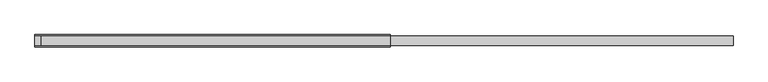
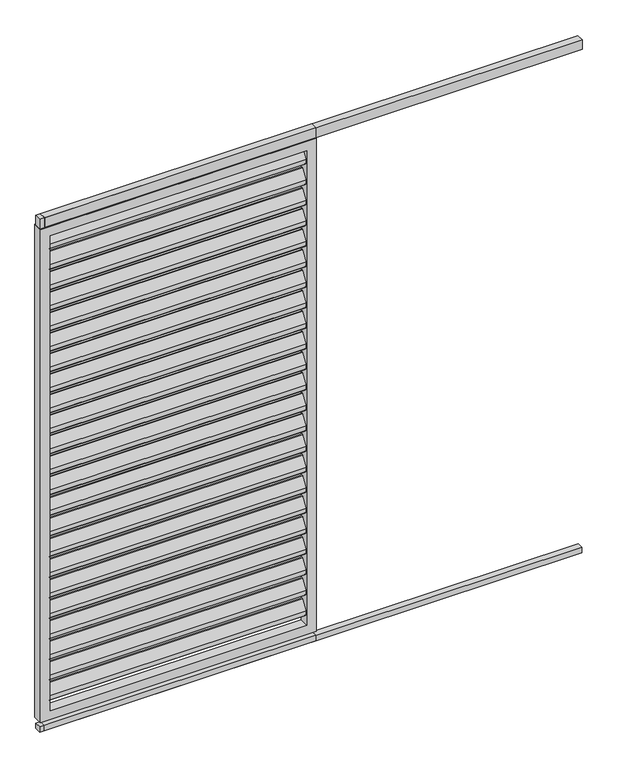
"""IFC4 building model written with IfcOpenShell, lengths in millimetres: proxy geometry, Renson_Camargue_Loggia_Paro_Aluminium : Renson_Camargue_Loggia_Paro_Aluminium."""

from ifc_helpers import new_model, si_unit, point, frame, frame_2d, origin, origin_with_axes, place, context, project, spatial, polyline, circle_curve, trimmed, segment, composite_curve, outline, extrude, source, transform, mapped, element, save


def generic_models_f1411d27(model_context):
    return source(origin(), model_context, "Body", "SweptSolid", [
        extrude(outline(composite_curve([segment(trimmed(circle_curve(frame_2d((12.6675921, 2162.6587719)), 3.0), [point((10.1515804, 2164.292689))], [point((15.6675921, 2162.6587719))], False, "CARTESIAN"), True, "CONTINUOUS"), segment(polyline([(15.6675921, 2162.6587719), (15.6675921, 2144.2979873)]), True, "CONTINUOUS"), segment(trimmed(circle_curve(frame_2d((12.6675921, 2144.2979873)), 3.0), [point((15.6675921, 2144.2979873))], [point((15.1836038, 2142.6640702))], False, "CARTESIAN"), True, "CONTINUOUS"), segment(polyline([(15.1836038, 2142.6640702), (-8.8163962, 2105.707311)]), True, "CONTINUOUS"), segment(trimmed(circle_curve(frame_2d((-11.3324079, 2107.3412281)), 3.0), [point((-8.8163962, 2105.707311))], [point((-14.3324079, 2107.3412281))], False, "CARTESIAN"), True, "CONTINUOUS"), segment(polyline([(-14.3324079, 2107.3412281), (-14.3324079, 2126.5906532), (10.1515804, 2164.292689)]), True, "CONTINUOUS")], self_intersect=False)), frame((-532.5, 0.0, 0.0), z_axis=(1.0, 0.0, 0.0), x_axis=(0.0, 1.0, 0.0)), (0.0, 0.0, 1.0), 1065.0),
        extrude(outline(composite_curve([segment(trimmed(circle_curve(frame_2d((12.6675921, 2072.6587719)), 3.0), [point((10.1515804, 2074.292689))], [point((15.6675921, 2072.6587719))], False, "CARTESIAN"), True, "CONTINUOUS"), segment(polyline([(15.6675921, 2072.6587719), (15.6675921, 2054.2979873)]), True, "CONTINUOUS"), segment(trimmed(circle_curve(frame_2d((12.6675921, 2054.2979873)), 3.0), [point((15.6675921, 2054.2979873))], [point((15.1836038, 2052.6640702))], False, "CARTESIAN"), True, "CONTINUOUS"), segment(polyline([(15.1836038, 2052.6640702), (-8.8163962, 2015.707311)]), True, "CONTINUOUS"), segment(trimmed(circle_curve(frame_2d((-11.3324079, 2017.3412281)), 3.0), [point((-8.8163962, 2015.707311))], [point((-14.3324079, 2017.3412281))], False, "CARTESIAN"), True, "CONTINUOUS"), segment(polyline([(-14.3324079, 2017.3412281), (-14.3324079, 2036.5906532), (10.1515804, 2074.292689)]), True, "CONTINUOUS")], self_intersect=False)), frame((-532.5, 0.0, 0.0), z_axis=(1.0, 0.0, 0.0), x_axis=(0.0, 1.0, 0.0)), (0.0, 0.0, 1.0), 1065.0),
        extrude(outline(composite_curve([segment(trimmed(circle_curve(frame_2d((12.6675921, 1982.6587719)), 3.0), [point((10.1515804, 1984.292689))], [point((15.6675921, 1982.6587719))], False, "CARTESIAN"), True, "CONTINUOUS"), segment(polyline([(15.6675921, 1982.6587719), (15.6675921, 1964.2979873)]), True, "CONTINUOUS"), segment(trimmed(circle_curve(frame_2d((12.6675921, 1964.2979873)), 3.0), [point((15.6675921, 1964.2979873))], [point((15.1836038, 1962.6640702))], False, "CARTESIAN"), True, "CONTINUOUS"), segment(polyline([(15.1836038, 1962.6640702), (-8.8163962, 1925.707311)]), True, "CONTINUOUS"), segment(trimmed(circle_curve(frame_2d((-11.3324079, 1927.3412281)), 3.0), [point((-8.8163962, 1925.707311))], [point((-14.3324079, 1927.3412281))], False, "CARTESIAN"), True, "CONTINUOUS"), segment(polyline([(-14.3324079, 1927.3412281), (-14.3324079, 1946.5906532), (10.1515804, 1984.292689)]), True, "CONTINUOUS")], self_intersect=False)), frame((-532.5, 0.0, 0.0), z_axis=(1.0, 0.0, 0.0), x_axis=(0.0, 1.0, 0.0)), (0.0, 0.0, 1.0), 1065.0),
        extrude(outline(composite_curve([segment(trimmed(circle_curve(frame_2d((12.6675921, 1892.6587719)), 3.0), [point((10.1515804, 1894.292689))], [point((15.6675921, 1892.6587719))], False, "CARTESIAN"), True, "CONTINUOUS"), segment(polyline([(15.6675921, 1892.6587719), (15.6675921, 1874.2979873)]), True, "CONTINUOUS"), segment(trimmed(circle_curve(frame_2d((12.6675921, 1874.2979873)), 3.0), [point((15.6675921, 1874.2979873))], [point((15.1836038, 1872.6640702))], False, "CARTESIAN"), True, "CONTINUOUS"), segment(polyline([(15.1836038, 1872.6640702), (-8.8163962, 1835.707311)]), True, "CONTINUOUS"), segment(trimmed(circle_curve(frame_2d((-11.3324079, 1837.3412281)), 3.0), [point((-8.8163962, 1835.707311))], [point((-14.3324079, 1837.3412281))], False, "CARTESIAN"), True, "CONTINUOUS"), segment(polyline([(-14.3324079, 1837.3412281), (-14.3324079, 1856.5906532), (10.1515804, 1894.292689)]), True, "CONTINUOUS")], self_intersect=False)), frame((-532.5, 0.0, 0.0), z_axis=(1.0, 0.0, 0.0), x_axis=(0.0, 1.0, 0.0)), (0.0, 0.0, 1.0), 1065.0),
        extrude(outline(composite_curve([segment(trimmed(circle_curve(frame_2d((12.6675921, 1802.6587719)), 3.0), [point((10.1515804, 1804.292689))], [point((15.6675921, 1802.6587719))], False, "CARTESIAN"), True, "CONTINUOUS"), segment(polyline([(15.6675921, 1802.6587719), (15.6675921, 1784.2979873)]), True, "CONTINUOUS"), segment(trimmed(circle_curve(frame_2d((12.6675921, 1784.2979873)), 3.0), [point((15.6675921, 1784.2979873))], [point((15.1836038, 1782.6640702))], False, "CARTESIAN"), True, "CONTINUOUS"), segment(polyline([(15.1836038, 1782.6640702), (-8.8163962, 1745.707311)]), True, "CONTINUOUS"), segment(trimmed(circle_curve(frame_2d((-11.3324079, 1747.3412281)), 3.0), [point((-8.8163962, 1745.707311))], [point((-14.3324079, 1747.3412281))], False, "CARTESIAN"), True, "CONTINUOUS"), segment(polyline([(-14.3324079, 1747.3412281), (-14.3324079, 1766.5906532), (10.1515804, 1804.292689)]), True, "CONTINUOUS")], self_intersect=False)), frame((-532.5, 0.0, 0.0), z_axis=(1.0, 0.0, 0.0), x_axis=(0.0, 1.0, 0.0)), (0.0, 0.0, 1.0), 1065.0),
        extrude(outline(composite_curve([segment(trimmed(circle_curve(frame_2d((12.6675921, 1712.6587719)), 3.0), [point((10.1515804, 1714.292689))], [point((15.6675921, 1712.6587719))], False, "CARTESIAN"), True, "CONTINUOUS"), segment(polyline([(15.6675921, 1712.6587719), (15.6675921, 1694.2979873)]), True, "CONTINUOUS"), segment(trimmed(circle_curve(frame_2d((12.6675921, 1694.2979873)), 3.0), [point((15.6675921, 1694.2979873))], [point((15.1836038, 1692.6640702))], False, "CARTESIAN"), True, "CONTINUOUS"), segment(polyline([(15.1836038, 1692.6640702), (-8.8163962, 1655.707311)]), True, "CONTINUOUS"), segment(trimmed(circle_curve(frame_2d((-11.3324079, 1657.3412281)), 3.0), [point((-8.8163962, 1655.707311))], [point((-14.3324079, 1657.3412281))], False, "CARTESIAN"), True, "CONTINUOUS"), segment(polyline([(-14.3324079, 1657.3412281), (-14.3324079, 1676.5906532), (10.1515804, 1714.292689)]), True, "CONTINUOUS")], self_intersect=False)), frame((-532.5, 0.0, 0.0), z_axis=(1.0, 0.0, 0.0), x_axis=(0.0, 1.0, 0.0)), (0.0, 0.0, 1.0), 1065.0),
        extrude(outline(composite_curve([segment(trimmed(circle_curve(frame_2d((12.6675921, 1622.6587719)), 3.0), [point((10.1515804, 1624.292689))], [point((15.6675921, 1622.6587719))], False, "CARTESIAN"), True, "CONTINUOUS"), segment(polyline([(15.6675921, 1622.6587719), (15.6675921, 1604.2979873)]), True, "CONTINUOUS"), segment(trimmed(circle_curve(frame_2d((12.6675921, 1604.2979873)), 3.0), [point((15.6675921, 1604.2979873))], [point((15.1836038, 1602.6640702))], False, "CARTESIAN"), True, "CONTINUOUS"), segment(polyline([(15.1836038, 1602.6640702), (-8.8163962, 1565.707311)]), True, "CONTINUOUS"), segment(trimmed(circle_curve(frame_2d((-11.3324079, 1567.3412281)), 3.0), [point((-8.8163962, 1565.707311))], [point((-14.3324079, 1567.3412281))], False, "CARTESIAN"), True, "CONTINUOUS"), segment(polyline([(-14.3324079, 1567.3412281), (-14.3324079, 1586.5906532), (10.1515804, 1624.292689)]), True, "CONTINUOUS")], self_intersect=False)), frame((-532.5, 0.0, 0.0), z_axis=(1.0, 0.0, 0.0), x_axis=(0.0, 1.0, 0.0)), (0.0, 0.0, 1.0), 1065.0),
        extrude(outline(composite_curve([segment(trimmed(circle_curve(frame_2d((12.6675921, 1532.6587719)), 3.0), [point((10.1515804, 1534.292689))], [point((15.6675921, 1532.6587719))], False, "CARTESIAN"), True, "CONTINUOUS"), segment(polyline([(15.6675921, 1532.6587719), (15.6675921, 1514.2979873)]), True, "CONTINUOUS"), segment(trimmed(circle_curve(frame_2d((12.6675921, 1514.2979873)), 3.0), [point((15.6675921, 1514.2979873))], [point((15.1836038, 1512.6640702))], False, "CARTESIAN"), True, "CONTINUOUS"), segment(polyline([(15.1836038, 1512.6640702), (-8.8163962, 1475.707311)]), True, "CONTINUOUS"), segment(trimmed(circle_curve(frame_2d((-11.3324079, 1477.3412281)), 3.0), [point((-8.8163962, 1475.707311))], [point((-14.3324079, 1477.3412281))], False, "CARTESIAN"), True, "CONTINUOUS"), segment(polyline([(-14.3324079, 1477.3412281), (-14.3324079, 1496.5906532), (10.1515804, 1534.292689)]), True, "CONTINUOUS")], self_intersect=False)), frame((-532.5, 0.0, 0.0), z_axis=(1.0, 0.0, 0.0), x_axis=(0.0, 1.0, 0.0)), (0.0, 0.0, 1.0), 1065.0),
        extrude(outline(composite_curve([segment(trimmed(circle_curve(frame_2d((12.6675921, 1442.6587719)), 3.0), [point((10.1515804, 1444.292689))], [point((15.6675921, 1442.6587719))], False, "CARTESIAN"), True, "CONTINUOUS"), segment(polyline([(15.6675921, 1442.6587719), (15.6675921, 1424.2979873)]), True, "CONTINUOUS"), segment(trimmed(circle_curve(frame_2d((12.6675921, 1424.2979873)), 3.0), [point((15.6675921, 1424.2979873))], [point((15.1836038, 1422.6640702))], False, "CARTESIAN"), True, "CONTINUOUS"), segment(polyline([(15.1836038, 1422.6640702), (-8.8163962, 1385.707311)]), True, "CONTINUOUS"), segment(trimmed(circle_curve(frame_2d((-11.3324079, 1387.3412281)), 3.0), [point((-8.8163962, 1385.707311))], [point((-14.3324079, 1387.3412281))], False, "CARTESIAN"), True, "CONTINUOUS"), segment(polyline([(-14.3324079, 1387.3412281), (-14.3324079, 1406.5906532), (10.1515804, 1444.292689)]), True, "CONTINUOUS")], self_intersect=False)), frame((-532.5, 0.0, 0.0), z_axis=(1.0, 0.0, 0.0), x_axis=(0.0, 1.0, 0.0)), (0.0, 0.0, 1.0), 1065.0),
        extrude(outline(composite_curve([segment(trimmed(circle_curve(frame_2d((12.6675921, 1352.6587719)), 3.0), [point((10.1515804, 1354.292689))], [point((15.6675921, 1352.6587719))], False, "CARTESIAN"), True, "CONTINUOUS"), segment(polyline([(15.6675921, 1352.6587719), (15.6675921, 1334.2979873)]), True, "CONTINUOUS"), segment(trimmed(circle_curve(frame_2d((12.6675921, 1334.2979873)), 3.0), [point((15.6675921, 1334.2979873))], [point((15.1836038, 1332.6640702))], False, "CARTESIAN"), True, "CONTINUOUS"), segment(polyline([(15.1836038, 1332.6640702), (-8.8163962, 1295.707311)]), True, "CONTINUOUS"), segment(trimmed(circle_curve(frame_2d((-11.3324079, 1297.3412281)), 3.0), [point((-8.8163962, 1295.707311))], [point((-14.3324079, 1297.3412281))], False, "CARTESIAN"), True, "CONTINUOUS"), segment(polyline([(-14.3324079, 1297.3412281), (-14.3324079, 1316.5906532), (10.1515804, 1354.292689)]), True, "CONTINUOUS")], self_intersect=False)), frame((-532.5, 0.0, 0.0), z_axis=(1.0, 0.0, 0.0), x_axis=(0.0, 1.0, 0.0)), (0.0, 0.0, 1.0), 1065.0),
        extrude(outline(composite_curve([segment(trimmed(circle_curve(frame_2d((12.6675921, 1262.6587719)), 3.0), [point((10.1515804, 1264.292689))], [point((15.6675921, 1262.6587719))], False, "CARTESIAN"), True, "CONTINUOUS"), segment(polyline([(15.6675921, 1262.6587719), (15.6675921, 1244.2979873)]), True, "CONTINUOUS"), segment(trimmed(circle_curve(frame_2d((12.6675921, 1244.2979873)), 3.0), [point((15.6675921, 1244.2979873))], [point((15.1836038, 1242.6640702))], False, "CARTESIAN"), True, "CONTINUOUS"), segment(polyline([(15.1836038, 1242.6640702), (-8.8163962, 1205.707311)]), True, "CONTINUOUS"), segment(trimmed(circle_curve(frame_2d((-11.3324079, 1207.3412281)), 3.0), [point((-8.8163962, 1205.707311))], [point((-14.3324079, 1207.3412281))], False, "CARTESIAN"), True, "CONTINUOUS"), segment(polyline([(-14.3324079, 1207.3412281), (-14.3324079, 1226.5906532), (10.1515804, 1264.292689)]), True, "CONTINUOUS")], self_intersect=False)), frame((-532.5, 0.0, 0.0), z_axis=(1.0, 0.0, 0.0), x_axis=(0.0, 1.0, 0.0)), (0.0, 0.0, 1.0), 1065.0),
        extrude(outline(composite_curve([segment(trimmed(circle_curve(frame_2d((12.6675921, 1172.6587719)), 3.0), [point((10.1515804, 1174.292689))], [point((15.6675921, 1172.6587719))], False, "CARTESIAN"), True, "CONTINUOUS"), segment(polyline([(15.6675921, 1172.6587719), (15.6675921, 1154.2979873)]), True, "CONTINUOUS"), segment(trimmed(circle_curve(frame_2d((12.6675921, 1154.2979873)), 3.0), [point((15.6675921, 1154.2979873))], [point((15.1836038, 1152.6640702))], False, "CARTESIAN"), True, "CONTINUOUS"), segment(polyline([(15.1836038, 1152.6640702), (-8.8163962, 1115.707311)]), True, "CONTINUOUS"), segment(trimmed(circle_curve(frame_2d((-11.3324079, 1117.3412281)), 3.0), [point((-8.8163962, 1115.707311))], [point((-14.3324079, 1117.3412281))], False, "CARTESIAN"), True, "CONTINUOUS"), segment(polyline([(-14.3324079, 1117.3412281), (-14.3324079, 1136.5906532), (10.1515804, 1174.292689)]), True, "CONTINUOUS")], self_intersect=False)), frame((-532.5, 0.0, 0.0), z_axis=(1.0, 0.0, 0.0), x_axis=(0.0, 1.0, 0.0)), (0.0, 0.0, 1.0), 1065.0),
        extrude(outline(composite_curve([segment(trimmed(circle_curve(frame_2d((12.6675921, 1082.6587719)), 3.0), [point((10.1515804, 1084.292689))], [point((15.6675921, 1082.6587719))], False, "CARTESIAN"), True, "CONTINUOUS"), segment(polyline([(15.6675921, 1082.6587719), (15.6675921, 1064.2979873)]), True, "CONTINUOUS"), segment(trimmed(circle_curve(frame_2d((12.6675921, 1064.2979873)), 3.0), [point((15.6675921, 1064.2979873))], [point((15.1836038, 1062.6640702))], False, "CARTESIAN"), True, "CONTINUOUS"), segment(polyline([(15.1836038, 1062.6640702), (-8.8163962, 1025.707311)]), True, "CONTINUOUS"), segment(trimmed(circle_curve(frame_2d((-11.3324079, 1027.3412281)), 3.0), [point((-8.8163962, 1025.707311))], [point((-14.3324079, 1027.3412281))], False, "CARTESIAN"), True, "CONTINUOUS"), segment(polyline([(-14.3324079, 1027.3412281), (-14.3324079, 1046.5906532), (10.1515804, 1084.292689)]), True, "CONTINUOUS")], self_intersect=False)), frame((-532.5, 0.0, 0.0), z_axis=(1.0, 0.0, 0.0), x_axis=(0.0, 1.0, 0.0)), (0.0, 0.0, 1.0), 1065.0),
        extrude(outline(composite_curve([segment(trimmed(circle_curve(frame_2d((12.6675921, 992.6587719)), 3.0), [point((10.1515804, 994.292689))], [point((15.6675921, 992.6587719))], False, "CARTESIAN"), True, "CONTINUOUS"), segment(polyline([(15.6675921, 992.6587719), (15.6675921, 974.2979873)]), True, "CONTINUOUS"), segment(trimmed(circle_curve(frame_2d((12.6675921, 974.2979873)), 3.0), [point((15.6675921, 974.2979873))], [point((15.1836038, 972.6640702))], False, "CARTESIAN"), True, "CONTINUOUS"), segment(polyline([(15.1836038, 972.6640702), (-8.8163962, 935.707311)]), True, "CONTINUOUS"), segment(trimmed(circle_curve(frame_2d((-11.3324079, 937.3412281)), 3.0), [point((-8.8163962, 935.707311))], [point((-14.3324079, 937.3412281))], False, "CARTESIAN"), True, "CONTINUOUS"), segment(polyline([(-14.3324079, 937.3412281), (-14.3324079, 956.5906532), (10.1515804, 994.292689)]), True, "CONTINUOUS")], self_intersect=False)), frame((-532.5, 0.0, 0.0), z_axis=(1.0, 0.0, 0.0), x_axis=(0.0, 1.0, 0.0)), (0.0, 0.0, 1.0), 1065.0),
        extrude(outline(composite_curve([segment(trimmed(circle_curve(frame_2d((12.6675921, 902.6587719)), 3.0), [point((10.1515804, 904.292689))], [point((15.6675921, 902.6587719))], False, "CARTESIAN"), True, "CONTINUOUS"), segment(polyline([(15.6675921, 902.6587719), (15.6675921, 884.2979873)]), True, "CONTINUOUS"), segment(trimmed(circle_curve(frame_2d((12.6675921, 884.2979873)), 3.0), [point((15.6675921, 884.2979873))], [point((15.1836038, 882.6640702))], False, "CARTESIAN"), True, "CONTINUOUS"), segment(polyline([(15.1836038, 882.6640702), (-8.8163962, 845.707311)]), True, "CONTINUOUS"), segment(trimmed(circle_curve(frame_2d((-11.3324079, 847.3412281)), 3.0), [point((-8.8163962, 845.707311))], [point((-14.3324079, 847.3412281))], False, "CARTESIAN"), True, "CONTINUOUS"), segment(polyline([(-14.3324079, 847.3412281), (-14.3324079, 866.5906532), (10.1515804, 904.292689)]), True, "CONTINUOUS")], self_intersect=False)), frame((-532.5, 0.0, 0.0), z_axis=(1.0, 0.0, 0.0), x_axis=(0.0, 1.0, 0.0)), (0.0, 0.0, 1.0), 1065.0),
        extrude(outline(composite_curve([segment(trimmed(circle_curve(frame_2d((12.6675921, 812.6587719)), 3.0), [point((10.1515804, 814.292689))], [point((15.6675921, 812.6587719))], False, "CARTESIAN"), True, "CONTINUOUS"), segment(polyline([(15.6675921, 812.6587719), (15.6675921, 794.2979873)]), True, "CONTINUOUS"), segment(trimmed(circle_curve(frame_2d((12.6675921, 794.2979873)), 3.0), [point((15.6675921, 794.2979873))], [point((15.1836038, 792.6640702))], False, "CARTESIAN"), True, "CONTINUOUS"), segment(polyline([(15.1836038, 792.6640702), (-8.8163962, 755.707311)]), True, "CONTINUOUS"), segment(trimmed(circle_curve(frame_2d((-11.3324079, 757.3412281)), 3.0), [point((-8.8163962, 755.707311))], [point((-14.3324079, 757.3412281))], False, "CARTESIAN"), True, "CONTINUOUS"), segment(polyline([(-14.3324079, 757.3412281), (-14.3324079, 776.5906532), (10.1515804, 814.292689)]), True, "CONTINUOUS")], self_intersect=False)), frame((-532.5, 0.0, 0.0), z_axis=(1.0, 0.0, 0.0), x_axis=(0.0, 1.0, 0.0)), (0.0, 0.0, 1.0), 1065.0),
        extrude(outline(composite_curve([segment(trimmed(circle_curve(frame_2d((12.6675921, 722.6587719)), 3.0), [point((10.1515804, 724.292689))], [point((15.6675921, 722.6587719))], False, "CARTESIAN"), True, "CONTINUOUS"), segment(polyline([(15.6675921, 722.6587719), (15.6675921, 704.2979873)]), True, "CONTINUOUS"), segment(trimmed(circle_curve(frame_2d((12.6675921, 704.2979873)), 3.0), [point((15.6675921, 704.2979873))], [point((15.1836038, 702.6640702))], False, "CARTESIAN"), True, "CONTINUOUS"), segment(polyline([(15.1836038, 702.6640702), (-8.8163962, 665.707311)]), True, "CONTINUOUS"), segment(trimmed(circle_curve(frame_2d((-11.3324079, 667.3412281)), 3.0), [point((-8.8163962, 665.707311))], [point((-14.3324079, 667.3412281))], False, "CARTESIAN"), True, "CONTINUOUS"), segment(polyline([(-14.3324079, 667.3412281), (-14.3324079, 686.5906532), (10.1515804, 724.292689)]), True, "CONTINUOUS")], self_intersect=False)), frame((-532.5, 0.0, 0.0), z_axis=(1.0, 0.0, 0.0), x_axis=(0.0, 1.0, 0.0)), (0.0, 0.0, 1.0), 1065.0),
        extrude(outline(composite_curve([segment(trimmed(circle_curve(frame_2d((12.6675921, 632.6587719)), 3.0), [point((10.1515804, 634.292689))], [point((15.6675921, 632.6587719))], False, "CARTESIAN"), True, "CONTINUOUS"), segment(polyline([(15.6675921, 632.6587719), (15.6675921, 614.2979873)]), True, "CONTINUOUS"), segment(trimmed(circle_curve(frame_2d((12.6675921, 614.2979873)), 3.0), [point((15.6675921, 614.2979873))], [point((15.1836038, 612.6640702))], False, "CARTESIAN"), True, "CONTINUOUS"), segment(polyline([(15.1836038, 612.6640702), (-8.8163962, 575.707311)]), True, "CONTINUOUS"), segment(trimmed(circle_curve(frame_2d((-11.3324079, 577.3412281)), 3.0), [point((-8.8163962, 575.707311))], [point((-14.3324079, 577.3412281))], False, "CARTESIAN"), True, "CONTINUOUS"), segment(polyline([(-14.3324079, 577.3412281), (-14.3324079, 596.5906532), (10.1515804, 634.292689)]), True, "CONTINUOUS")], self_intersect=False)), frame((-532.5, 0.0, 0.0), z_axis=(1.0, 0.0, 0.0), x_axis=(0.0, 1.0, 0.0)), (0.0, 0.0, 1.0), 1065.0),
        extrude(outline(composite_curve([segment(trimmed(circle_curve(frame_2d((12.6675921, 542.6587719)), 3.0), [point((10.1515804, 544.292689))], [point((15.6675921, 542.6587719))], False, "CARTESIAN"), True, "CONTINUOUS"), segment(polyline([(15.6675921, 542.6587719), (15.6675921, 524.2979873)]), True, "CONTINUOUS"), segment(trimmed(circle_curve(frame_2d((12.6675921, 524.2979873)), 3.0), [point((15.6675921, 524.2979873))], [point((15.1836038, 522.6640702))], False, "CARTESIAN"), True, "CONTINUOUS"), segment(polyline([(15.1836038, 522.6640702), (-8.8163962, 485.707311)]), True, "CONTINUOUS"), segment(trimmed(circle_curve(frame_2d((-11.3324079, 487.3412281)), 3.0), [point((-8.8163962, 485.707311))], [point((-14.3324079, 487.3412281))], False, "CARTESIAN"), True, "CONTINUOUS"), segment(polyline([(-14.3324079, 487.3412281), (-14.3324079, 506.5906532), (10.1515804, 544.292689)]), True, "CONTINUOUS")], self_intersect=False)), frame((-532.5, 0.0, 0.0), z_axis=(1.0, 0.0, 0.0), x_axis=(0.0, 1.0, 0.0)), (0.0, 0.0, 1.0), 1065.0),
        extrude(outline(composite_curve([segment(trimmed(circle_curve(frame_2d((12.6675921, 452.6587719)), 3.0), [point((10.1515804, 454.292689))], [point((15.6675921, 452.6587719))], False, "CARTESIAN"), True, "CONTINUOUS"), segment(polyline([(15.6675921, 452.6587719), (15.6675921, 434.2979873)]), True, "CONTINUOUS"), segment(trimmed(circle_curve(frame_2d((12.6675921, 434.2979873)), 3.0), [point((15.6675921, 434.2979873))], [point((15.1836038, 432.6640702))], False, "CARTESIAN"), True, "CONTINUOUS"), segment(polyline([(15.1836038, 432.6640702), (-8.8163962, 395.707311)]), True, "CONTINUOUS"), segment(trimmed(circle_curve(frame_2d((-11.3324079, 397.3412281)), 3.0), [point((-8.8163962, 395.707311))], [point((-14.3324079, 397.3412281))], False, "CARTESIAN"), True, "CONTINUOUS"), segment(polyline([(-14.3324079, 397.3412281), (-14.3324079, 416.5906532), (10.1515804, 454.292689)]), True, "CONTINUOUS")], self_intersect=False)), frame((-532.5, 0.0, 0.0), z_axis=(1.0, 0.0, 0.0), x_axis=(0.0, 1.0, 0.0)), (0.0, 0.0, 1.0), 1065.0),
        extrude(outline(composite_curve([segment(trimmed(circle_curve(frame_2d((12.6675921, 362.6587719)), 3.0), [point((10.1515804, 364.292689))], [point((15.6675921, 362.6587719))], False, "CARTESIAN"), True, "CONTINUOUS"), segment(polyline([(15.6675921, 362.6587719), (15.6675921, 344.2979873)]), True, "CONTINUOUS"), segment(trimmed(circle_curve(frame_2d((12.6675921, 344.2979873)), 3.0), [point((15.6675921, 344.2979873))], [point((15.1836038, 342.6640702))], False, "CARTESIAN"), True, "CONTINUOUS"), segment(polyline([(15.1836038, 342.6640702), (-8.8163962, 305.707311)]), True, "CONTINUOUS"), segment(trimmed(circle_curve(frame_2d((-11.3324079, 307.3412281)), 3.0), [point((-8.8163962, 305.707311))], [point((-14.3324079, 307.3412281))], False, "CARTESIAN"), True, "CONTINUOUS"), segment(polyline([(-14.3324079, 307.3412281), (-14.3324079, 326.5906532), (10.1515804, 364.292689)]), True, "CONTINUOUS")], self_intersect=False)), frame((-532.5, 0.0, 0.0), z_axis=(1.0, 0.0, 0.0), x_axis=(0.0, 1.0, 0.0)), (0.0, 0.0, 1.0), 1065.0),
        extrude(outline(composite_curve([segment(trimmed(circle_curve(frame_2d((12.6675921, 272.6587719)), 3.0), [point((10.1515804, 274.292689))], [point((15.6675921, 272.6587719))], False, "CARTESIAN"), True, "CONTINUOUS"), segment(polyline([(15.6675921, 272.6587719), (15.6675921, 254.2979873)]), True, "CONTINUOUS"), segment(trimmed(circle_curve(frame_2d((12.6675921, 254.2979873)), 3.0), [point((15.6675921, 254.2979873))], [point((15.1836038, 252.6640702))], False, "CARTESIAN"), True, "CONTINUOUS"), segment(polyline([(15.1836038, 252.6640702), (-8.8163962, 215.707311)]), True, "CONTINUOUS"), segment(trimmed(circle_curve(frame_2d((-11.3324079, 217.3412281)), 3.0), [point((-8.8163962, 215.707311))], [point((-14.3324079, 217.3412281))], False, "CARTESIAN"), True, "CONTINUOUS"), segment(polyline([(-14.3324079, 217.3412281), (-14.3324079, 236.5906532), (10.1515804, 274.292689)]), True, "CONTINUOUS")], self_intersect=False)), frame((-532.5, 0.0, 0.0), z_axis=(1.0, 0.0, 0.0), x_axis=(0.0, 1.0, 0.0)), (0.0, 0.0, 1.0), 1065.0),
        extrude(outline(composite_curve([segment(trimmed(circle_curve(frame_2d((12.6675921, 182.6587719)), 3.0), [point((10.1515804, 184.292689))], [point((15.6675921, 182.6587719))], False, "CARTESIAN"), True, "CONTINUOUS"), segment(polyline([(15.6675921, 182.6587719), (15.6675921, 164.2979873)]), True, "CONTINUOUS"), segment(trimmed(circle_curve(frame_2d((12.6675921, 164.2979873)), 3.0), [point((15.6675921, 164.2979873))], [point((15.1836038, 162.6640702))], False, "CARTESIAN"), True, "CONTINUOUS"), segment(polyline([(15.1836038, 162.6640702), (-8.8163962, 125.707311)]), True, "CONTINUOUS"), segment(trimmed(circle_curve(frame_2d((-11.3324079, 127.3412281)), 3.0), [point((-8.8163962, 125.707311))], [point((-14.3324079, 127.3412281))], False, "CARTESIAN"), True, "CONTINUOUS"), segment(polyline([(-14.3324079, 127.3412281), (-14.3324079, 146.5906532), (10.1515804, 184.292689)]), True, "CONTINUOUS")], self_intersect=False)), frame((-532.5, 0.0, 0.0), z_axis=(1.0, 0.0, 0.0), x_axis=(0.0, 1.0, 0.0)), (0.0, 0.0, 1.0), 1065.0),
        extrude(outline(polyline([(572.5, 15.0), (572.5, -15.0), (-552.5, -15.0), (-552.5, 15.0), (572.5, 15.0)])), frame((0.0, 0.0, 2207.7138321), z_axis=(0.0, 0.0, 1.0), x_axis=(1.0, 0.0, 0.0)), (0.0, 0.0, 1.0), 42.2861679),
        extrude(outline(polyline([(1677.5, 15.0), (1677.5, -15.0), (-572.5, -15.0), (-572.5, 15.0), (1677.5, 15.0)])), frame((0.0, 0.0, 2207.7138321), z_axis=(0.0, 0.0, 1.0), x_axis=(1.0, 0.0, 0.0)), (0.0, 0.0, 1.0), 42.2861679),
        extrude(outline(polyline([(572.5, -13.0), (-552.5, -13.0), (-552.5, 14.0), (572.5, 14.0), (572.5, -13.0)])), origin_with_axes(), (0.0, 0.0, 1.0), 23.0),
        extrude(outline(polyline([(1677.5, -13.0), (-572.5, -13.0), (-572.5, 14.0), (1677.5, 14.0), (1677.5, -13.0)])), origin_with_axes(), (0.0, 0.0, 1.0), 23.0),
        extrude(outline(polyline([(2207.7138321, -572.5), (45.0, -572.5), (45.0, 572.5), (2207.7138321, 572.5), (2207.7138321, -572.5)]), holes=[polyline([(2167.7138321, 532.5), (85.0, 532.5), (85.0, -532.5), (2167.7138321, -532.5), (2167.7138321, 532.5)])]), frame((0.0, -20.0, 0.0), z_axis=(0.0, 1.0, 0.0), x_axis=(0.0, 0.0, 1.0)), (0.0, 0.0, 1.0), 40.0),
    ])


if __name__ == "__main__":
    model = new_model("IFC4")
    model_context = context("Model", 3, world=origin())
    ifc_project = project(units=[si_unit("LENGTHUNIT", "METRE", prefix="MILLI")], contexts=[model_context])
    site = spatial("IfcSite", under=ifc_project)
    building = spatial("IfcBuilding", under=site)
    placement = place(None, origin())
    generic_models_shape = generic_models_f1411d27(model_context)
    element("IfcBuildingElementProxy", 1, Name="Renson_Camargue_Loggia_Paro_Aluminium : Renson_Camargue_Loggia_Paro_Aluminium", ObjectType="Renson_Camargue_Loggia_Paro_Aluminium : Renson_Camargue_Loggia_Paro_Aluminium", at=placement, inside=building, context=model_context, shape_type="MappedRepresentation", body=[
        mapped(generic_models_shape, transform((0.0, 0.0, 0.0), x_axis=(1.0, 0.0, 0.0), y_axis=(0.0, 1.0, 0.0), z_axis=(0.0, 0.0, 1.0))),
    ])
    save(model, "model.ifc")
